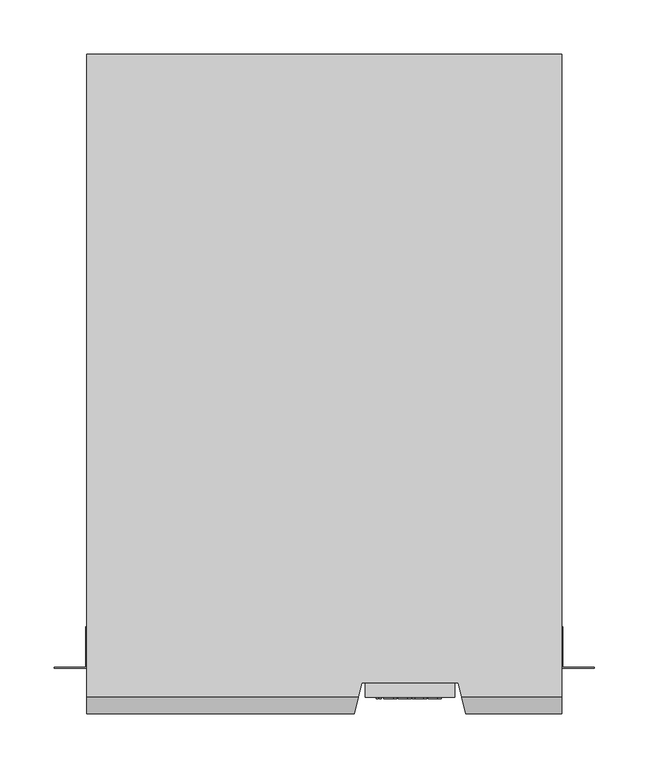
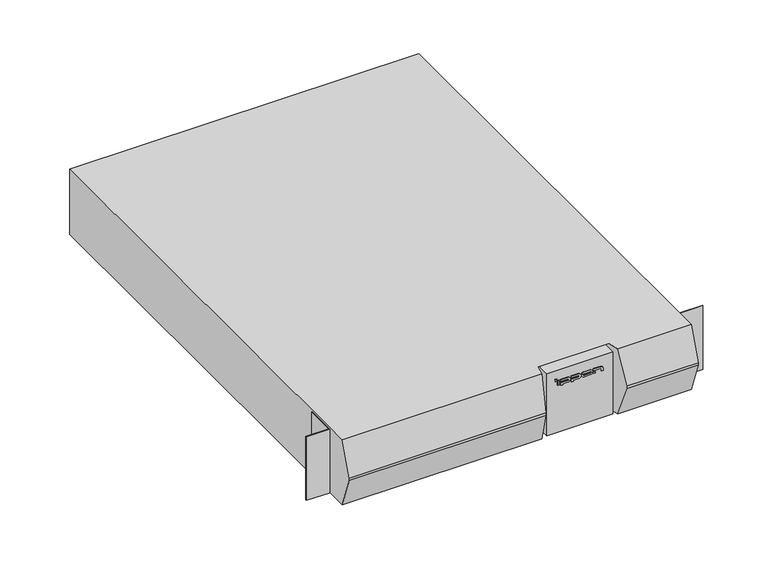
"""IFC4 building model written with IfcOpenShell, lengths in millimetres: proxy geometry, IPPON_EBM_Innova RT_1000_1500-2000_3000ВА : БМ Innova RT 3000 ВА."""

from ifc_helpers import new_model, si_unit, point, frame, frame_2d, origin, place, context, project, spatial, polyline, circle_curve, trimmed, segment, composite_curve, outline, extrude, faceted_brep, source, transform, mapped, element, save


def electrical_equipment_ea3c379c(model_context):
    return source(origin(), model_context, "Body", "SolidModel", [
        extrude(outline(polyline([(49.8281867, 14.0), (47.8281867, 14.0), (47.8281867, 15.0), (49.8281867, 15.0), (49.8281867, 14.0)])), frame((0.0, 0.0, 72.9695835), z_axis=(0.0, 0.0, 1.0), x_axis=(1.0, 0.0, 0.0)), (0.0, 0.0, 1.0), 2.3),
        extrude(outline(polyline([(97.6035474, 14.0), (95.6035474, 14.0), (95.6035474, 15.0), (97.6035474, 15.0), (97.6035474, 14.0)])), frame((0.0, 0.0, 66.9695835), z_axis=(0.0, 0.0, 1.0), x_axis=(1.0, 0.0, 0.0)), (0.0, 0.0, 1.0), 2.2268231),
        extrude(outline(polyline([(52.561435, 14.0), (50.5166676, 14.0), (50.5166676, 15.0), (52.561435, 15.0), (52.561435, 14.0)])), frame((0.0, 0.0, 66.9695835), z_axis=(0.0, 0.0, 1.0), x_axis=(1.0, 0.0, 0.0)), (0.0, 0.0, 1.0), 6.0),
        extrude(outline(composite_curve([segment(polyline([(70.7071435, 54.7758891), (70.7071435, 64.0076464)]), True, "CONTINUOUS"), segment(trimmed(circle_curve(frame_2d((69.8506642, 64.0076464)), 0.8564793), [point((70.7071435, 64.0076464))], [point((68.9941849, 64.0076464))], True, "CARTESIAN"), True, "CONTINUOUS"), segment(polyline([(68.9941849, 64.0076464), (68.9941849, 54.7758891), (65.5036803, 54.7758891), (65.5036803, 56.7758891), (66.9695835, 56.7758891), (66.9695835, 63.8513964)]), True, "CONTINUOUS"), segment(trimmed(circle_curve(frame_2d((69.9695835, 63.8513964)), 3.0), [point((66.9695835, 63.8513964))], [point((72.9695835, 63.8513964))], False, "CARTESIAN"), True, "CONTINUOUS"), segment(polyline([(72.9695835, 63.8513964), (72.9695835, 54.7758891), (70.7071435, 54.7758891)]), True, "CONTINUOUS")], self_intersect=False)), frame((0.0, 14.0, 0.0), z_axis=(0.0, 1.0, 0.0), x_axis=(0.0, 0.0, 1.0)), (0.0, 0.0, 1.0), 1.0),
        extrude(outline(composite_curve([segment(polyline([(70.7071435, 67.9828909), (70.7071435, 77.2146482)]), True, "CONTINUOUS"), segment(trimmed(circle_curve(frame_2d((69.8506642, 77.2146482)), 0.8564793), [point((70.7071435, 77.2146482))], [point((68.9941849, 77.2146482))], True, "CARTESIAN"), True, "CONTINUOUS"), segment(polyline([(68.9941849, 77.2146482), (68.9941849, 67.9828909), (65.5036803, 67.9828909), (65.5036803, 69.9828909), (66.9695835, 69.9828909), (66.9695835, 77.0583982)]), True, "CONTINUOUS"), segment(trimmed(circle_curve(frame_2d((69.9695835, 77.0583982)), 3.0), [point((66.9695835, 77.0583982))], [point((72.9695835, 77.0583982))], False, "CARTESIAN"), True, "CONTINUOUS"), segment(polyline([(72.9695835, 77.0583982), (72.9695835, 67.9828909), (70.7071435, 67.9828909)]), True, "CONTINUOUS")], self_intersect=False)), frame((0.0, 14.0, 0.0), z_axis=(0.0, 1.0, 0.0), x_axis=(0.0, 0.0, 1.0)), (0.0, 0.0, 1.0), 1.0),
        extrude(outline(composite_curve([segment(trimmed(circle_curve(frame_2d((69.9695835, 91.558657)), 3.0), [point((66.9695835, 91.558657))], [point((72.9695835, 91.558657))], False, "CARTESIAN"), True, "CONTINUOUS"), segment(polyline([(72.9695835, 91.558657), (72.9695835, 83.958657)]), True, "CONTINUOUS"), segment(trimmed(circle_curve(frame_2d((69.9695835, 83.958657)), 3.0), [point((72.9695835, 83.958657))], [point((66.9695835, 83.958657))], False, "CARTESIAN"), True, "CONTINUOUS"), segment(polyline([(66.9695835, 83.958657), (66.9695835, 91.558657)]), True, "CONTINUOUS")], self_intersect=False), holes=[composite_curve([segment(polyline([(68.9941849, 91.714907), (68.9941849, 83.802407)]), True, "CONTINUOUS"), segment(trimmed(circle_curve(frame_2d((69.8506642, 83.802407)), 0.8564793), [point((68.9941849, 83.802407))], [point((70.7071435, 83.802407))], True, "CARTESIAN"), True, "CONTINUOUS"), segment(polyline([(70.7071435, 83.802407), (70.7071435, 91.714907)]), True, "CONTINUOUS"), segment(trimmed(circle_curve(frame_2d((69.8506642, 91.714907)), 0.8564793), [point((70.7071435, 91.714907))], [point((68.9941849, 91.714907))], True, "CARTESIAN"), True, "CONTINUOUS")], self_intersect=False)]), frame((0.0, 14.0, 0.0), z_axis=(0.0, 1.0, 0.0), x_axis=(0.0, 0.0, 1.0)), (0.0, 0.0, 1.0), 1.0),
        extrude(outline(composite_curve([segment(polyline([(70.7071435, 95.6035474), (70.7071435, 104.8353046)]), True, "CONTINUOUS"), segment(trimmed(circle_curve(frame_2d((69.8506642, 104.8353046)), 0.8564793), [point((70.7071435, 104.8353046))], [point((69.8506642, 105.6917839))], True, "CARTESIAN"), True, "CONTINUOUS"), segment(polyline([(69.8506642, 105.6917839), (66.9695835, 105.6917839), (66.9695835, 107.6317921), (70.5, 107.6317921)]), True, "CONTINUOUS"), segment(trimmed(circle_curve(frame_2d((69.9695835, 104.6790546)), 3.0), [point((70.5, 107.6317921))], [point((72.9695835, 104.6790546))], False, "CARTESIAN"), True, "CONTINUOUS"), segment(polyline([(72.9695835, 104.6790546), (72.9695835, 95.6035474), (70.7071435, 95.6035474)]), True, "CONTINUOUS")], self_intersect=False)), frame((0.0, 14.0, 0.0), z_axis=(0.0, 1.0, 0.0), x_axis=(0.0, 0.0, 1.0)), (0.0, 0.0, 1.0), 1.0),
        extrude(outline(polyline([(120.25, 15.0), (37.75, 15.0), (37.75, 43.0), (120.25, 43.0), (120.25, 15.0)])), frame((0.0, 0.0, 4.0), z_axis=(0.0, 0.0, 1.0), x_axis=(1.0, 0.0, 0.0)), (0.0, 0.0, 1.0), 82.5),
        faceted_brep([(219.0, 0.0, 43.75), (219.0, 0.0, 46.75), (130.25, 0.0, 46.75), (130.25, 0.0, 43.75), (-219.0, 0.0, 46.75), (-219.0, 0.0, 43.75), (27.75, 0.0, 43.75), (27.75, 0.0, 46.75), (219.0, 15.0, 2.0), (219.0, 608.0, 2.0), (219.0, 608.0, 88.5), (219.0, 15.0, 88.5), (126.7616279, 15.0, 88.5), (-219.0, 15.0, 88.5), (31.2383721, 15.0, 88.5), (-219.0, 608.0, 88.5), (-219.0, 608.0, 2.0), (-219.0, 15.0, 2.0), (126.7616279, 15.0, 2.0), (31.2383721, 15.0, 2.0), (120.25, 43.0, 86.5), (37.75, 43.0, 86.5), (37.75, 43.0, 4.0), (120.25, 43.0, 4.0), (122.25, 34.4, 2.0), (123.5833333, 28.6666667, 88.5), (35.75, 34.4, 2.0), (34.4166667, 28.6666667, 88.5)], [[[0, 1, 2, 3]], [[4, 5, 6, 7]], [[1, 0, 8, 9, 10, 11]], [[1, 11, 12, 2]], [[13, 4, 7, 14]], [[5, 4, 13, 15, 16, 17]], [[8, 0, 3, 18]], [[5, 17, 19, 6]], [[20, 21, 22, 23]], [[20, 23, 24, 18, 3, 2, 12, 25]], [[23, 22, 26, 24]], [[22, 21, 27, 14, 7, 6, 19, 26]], [[21, 20, 25, 27]], [[10, 9, 16, 15]], [[10, 15, 13, 14, 27, 25, 12, 11]], [[16, 9, 8, 18, 24, 26, 19, 17]]]),
        extrude(outline(polyline([(219.0, 42.0), (219.0, 80.0), (220.0, 80.0), (220.0, 43.0), (249.0, 43.0), (249.0, 42.0), (219.0, 42.0)])), frame((0.0, 0.0, 2.0), z_axis=(0.0, 0.0, 1.0), x_axis=(1.0, 0.0, 0.0)), (0.0, 0.0, 1.0), 84.5),
        extrude(outline(polyline([(-219.0, 42.0), (-249.0, 42.0), (-249.0, 43.0), (-220.0, 43.0), (-220.0, 80.0), (-219.0, 80.0), (-219.0, 42.0)])), frame((0.0, 0.0, 2.0), z_axis=(0.0, 0.0, 1.0), x_axis=(1.0, 0.0, 0.0)), (0.0, 0.0, 1.0), 84.5),
    ])


if __name__ == "__main__":
    model = new_model("IFC4")
    model_context = context("Model", 3, world=origin())
    ifc_project = project(units=[si_unit("LENGTHUNIT", "METRE", prefix="MILLI")], contexts=[model_context])
    site = spatial("IfcSite", under=ifc_project)
    building = spatial("IfcBuilding", under=site)
    placement = place(None, origin())
    electrical_equipment_shape = electrical_equipment_ea3c379c(model_context)
    element("IfcBuildingElementProxy", 1, Name="IPPON_EBM_Innova RT_1000_1500-2000_3000ВА : БМ Innova RT 3000 ВА", ObjectType="IPPON_EBM_Innova RT_1000_1500-2000_3000ВА : БМ Innova RT 3000 ВА", at=placement, inside=building, context=model_context, shape_type="MappedRepresentation", body=[
        mapped(electrical_equipment_shape, transform((0.0, 0.0, 0.0), x_axis=(1.0, 0.0, 0.0), y_axis=(0.0, 1.0, 0.0), z_axis=(0.0, 0.0, 1.0))),
    ])
    save(model, "model.ifc")
